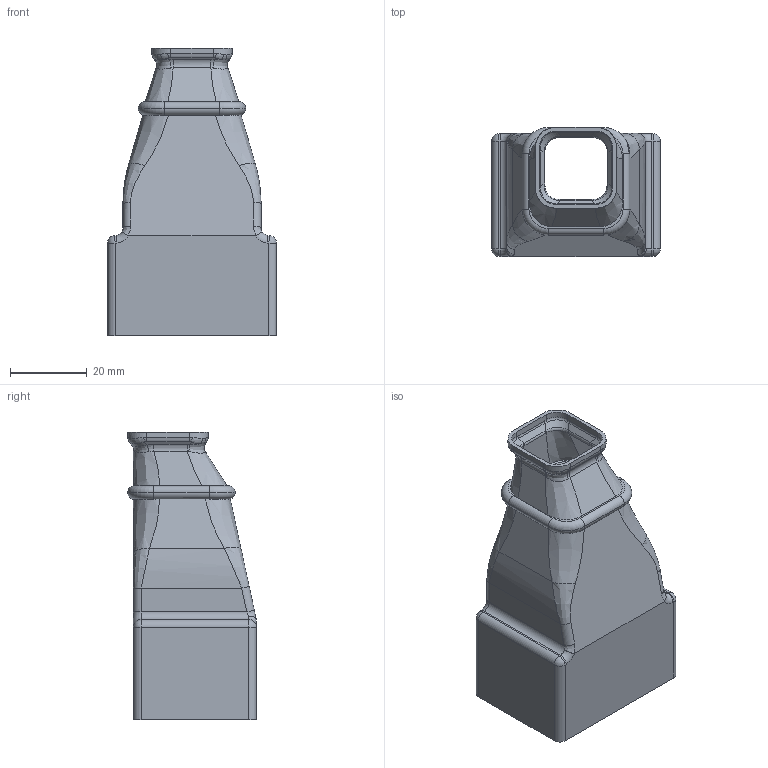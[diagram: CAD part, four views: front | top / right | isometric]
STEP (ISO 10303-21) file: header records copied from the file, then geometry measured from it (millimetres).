
FILE_DESCRIPTION(('Creo Elements/Direct Modeling STEP Export'),'2;1');
FILE_NAME('QTM-834C.stp','2014-02-25T13:10:45',(''),(''),'Creo Elements/Direct Modeling STEP processor for AP214 (Solid Model)','Creo Elements/Direct Modeling 18.1B 29-Sep-2012 (C) Parametric Technology GmbH','');
FILE_SCHEMA(('AUTOMOTIVE_DESIGN { 1 0 10303 214 1 1 1 1 }'));
Length unit declared in the file: millimetre
Products named in the file (1): QTM-834C
Bounding box: 44 x 33.5 x 75 mm (x, y, z)
Volume: 9323.6 mm3; surface area: 18598.4 mm2
Topology: 1 solids, 1 shells, 259 faces, 634 edges, 371 vertices
Faces by surface type: cylinder 85, bspline 83, plane 60, torus 23, sphere 8
Entity records: 17512 total; most frequent: CARTESIAN_POINT 12425, ORIENTED_EDGE 1252, DIRECTION 781, EDGE_CURVE 626, VERTEX_POINT 371, AXIS2_PLACEMENT_3D 293, EDGE_LOOP 263, FACE_OUTER_BOUND 259
